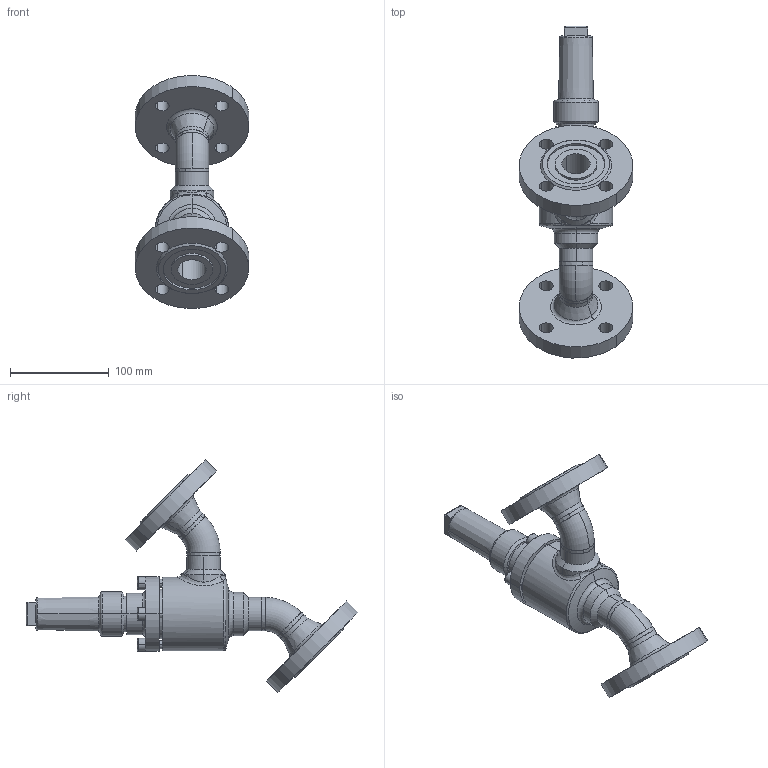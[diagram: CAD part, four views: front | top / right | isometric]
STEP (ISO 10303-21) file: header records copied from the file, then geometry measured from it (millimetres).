
FILE_DESCRIPTION (( 'STEP AP214' ), '1' );
FILE_NAME ('HRAB12320D12-DN025_DIN-FL-N_PS40.STEP', '2006-04-27T11:59:06', ( 'Herr Grams' ), ( 'AWP GmbH' ), 'SwSTEP 2.0', 'SolidWorks 2002296', '' );
FILE_SCHEMA (( 'AUTOMOTIVE_DESIGN' ));
Length unit declared in the file: millimetre
Products named in the file (14): HRAB12320D12-DN025_DIN-FL-N_PS40; AVB16300E13_Deck+Schr-DN25-32_Standard; Deckel16300E13-DN25-32_Standard; Zylinderschraube-DIN912_M 8x 25; Gehäuse-kpl16320-DN025_DIN_PS40_Standard; Gehäuse-kpl16300-DN025_R1_Standard; Gehäuse16400-DN025_Standard; Rohrbogen 45°_R1-Fase_Rohrbogen-DN025-45°; bead16300-Geh-025-1_Standard; bead16300-Geh-025-2_Standard; bead16320-DN025-1_Standard; Flansch-DIN2635-Nut_PS40_DIN-Flansch-DN025_PS40-Nut; bead16320-DN025-2_Standard; Kappe16402_DN010-32_Standard
Assembly tree (18 placements, depth 4):
  HRAB12320D12-DN025_DIN-FL-N_PS40
    AVB16300E13_Deck+Schr-DN25-32_Standard
      Zylinderschraube-DIN912_M 8x 25  x4
      Deckel16300E13-DN25-32_Standard
    Kappe16402_DN010-32_Standard
    Gehäuse-kpl16320-DN025_DIN_PS40_Standard
      bead16320-DN025-2_Standard
      bead16320-DN025-1_Standard
      Flansch-DIN2635-Nut_PS40_DIN-Flansch-DN025_PS40-Nut  x2
      Gehäuse-kpl16300-DN025_R1_Standard
        bead16300-Geh-025-2_Standard
        Gehäuse16400-DN025_Standard
        bead16300-Geh-025-1_Standard
        Rohrbogen 45°_R1-Fase_Rohrbogen-DN025-45°  x2
Bounding box: 114.56 x 335.45 x 235.16 mm (x, y, z)
Volume: 715399.5 mm3; surface area: 174760.1 mm2
Topology: 15 solids, 15 shells, 334 faces, 778 edges, 491 vertices
Faces by surface type: cylinder 123, plane 90, cone 67, torus 35, bspline 19
Entity records: 49866 total; most frequent: CARTESIAN_POINT 43548, DIRECTION 1165, ORIENTED_EDGE 1120, EDGE_CURVE 560, AXIS2_PLACEMENT_3D 496, VERTEX_POINT 353, EDGE_LOOP 281, CIRCLE 253
